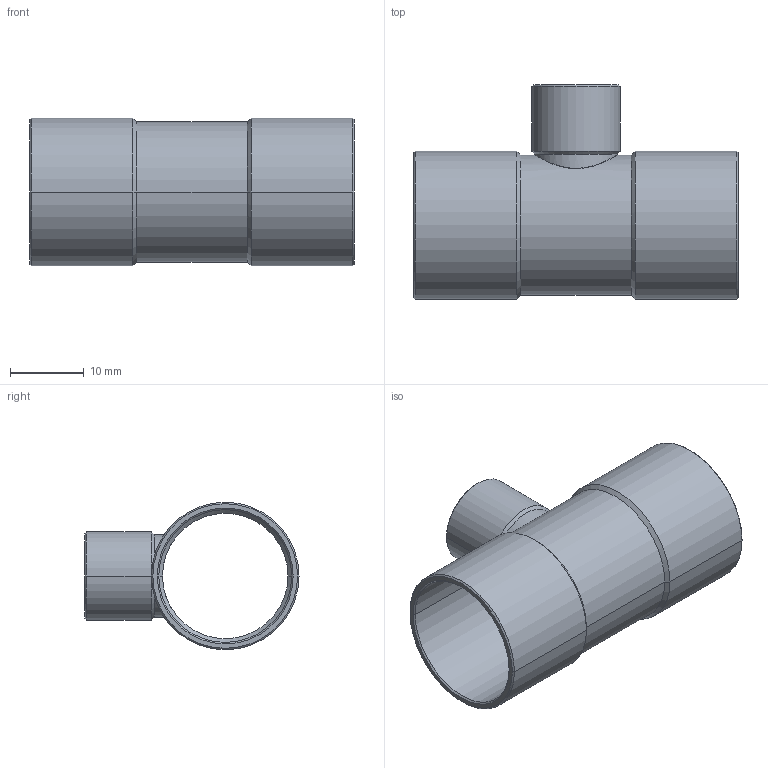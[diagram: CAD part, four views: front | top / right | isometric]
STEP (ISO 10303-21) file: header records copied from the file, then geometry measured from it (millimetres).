
FILE_DESCRIPTION((''),'2;1');
FILE_NAME('P:\Bouwmaten\z-maattekeningen 3D\5000\5130\5130181018.stp','2005-10-26T11:53:18',('Kris'),(''),'Autodesk Inventor 8','Autodesk Inventor 8','');
FILE_SCHEMA(('AUTOMOTIVE_DESIGN { 1 0 10303 214 1 1 1 1 }'));
Length unit declared in the file: millimetre
Products named in the file (1): 5130181018
Bounding box: 44 x 29 x 20 mm (x, y, z)
Volume: 2849.7 mm3; surface area: 5886.7 mm2
Topology: 1 solids, 1 shells, 49 faces, 108 edges, 60 vertices
Faces by surface type: cone 20, cylinder 16, bspline 10, plane 3
Entity records: 1835 total; most frequent: CARTESIAN_POINT 762, DIRECTION 224, ORIENTED_EDGE 216, EDGE_CURVE 108, AXIS2_PLACEMENT_3D 89, VERTEX_POINT 60, EDGE_LOOP 52, CIRCLE 49
